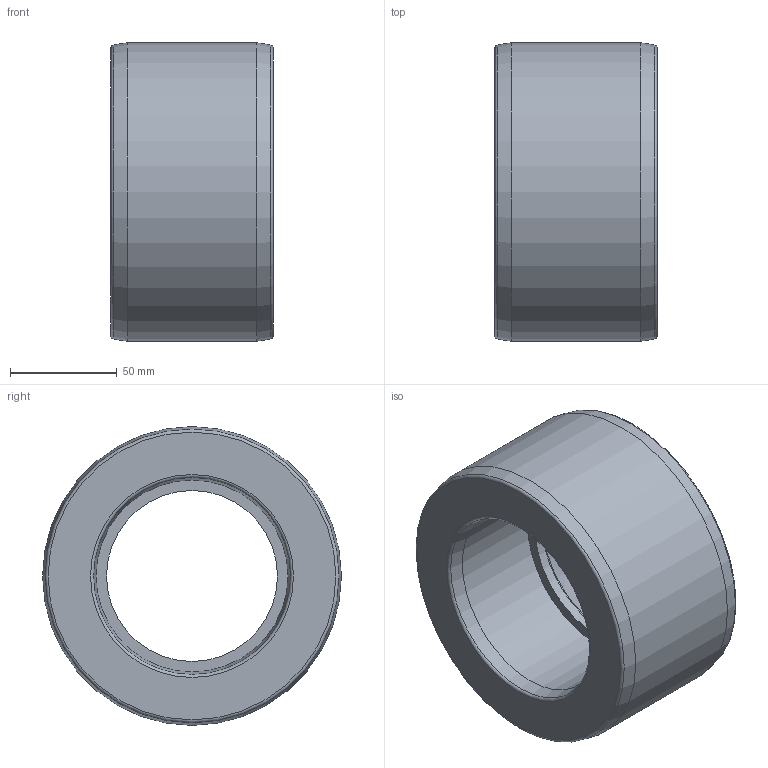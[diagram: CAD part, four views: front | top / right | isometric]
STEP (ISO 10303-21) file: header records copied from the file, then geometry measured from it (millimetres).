
FILE_DESCRIPTION(/* description */ ('PLASSON BUSHING-CEMENT PVC 140-90'),/* implementation_level */ '2;1');
FILE_NAME(/* name */ 'C:\Dropbox\KIMPROJECTS-Inventor\99-16-3568-Processing\PVC Catalog 2017\050900\050900140090.ipt.stp',/* time_stamp */ '2017-12-07T15:59:39+02:00',/* author */ ('KIM'),/* organization */ (''),/* preprocessor_version */ 'ST-DEVELOPER v15.6',/* originating_system */ 'Autodesk Inventor 2015',/* authorisation */ '');
FILE_SCHEMA (('AUTOMOTIVE_DESIGN { 1 0 10303 214 3 1 1 }'));
Length unit declared in the file: millimetre
Products named in the file (1): 050900140090
Bounding box: 76 x 140 x 140 mm (x, y, z)
Volume: 679833.7 mm3; surface area: 71087.4 mm2
Topology: 1 solids, 1 shells, 15 faces, 27 edges, 15 vertices
Faces by surface type: torus 5, cone 4, cylinder 3, plane 3
Full cylindrical faces by diameter (mm): 80.1 x1, 90 x1, 140 x1
Entity records: 332 total; most frequent: DIRECTION 62, CARTESIAN_POINT 46, AXIS2_PLACEMENT_3D 31, EDGE_LOOP 30, ORIENTED_EDGE 30, FACE_BOUND 15, FACE_OUTER_BOUND 15, CIRCLE 15
